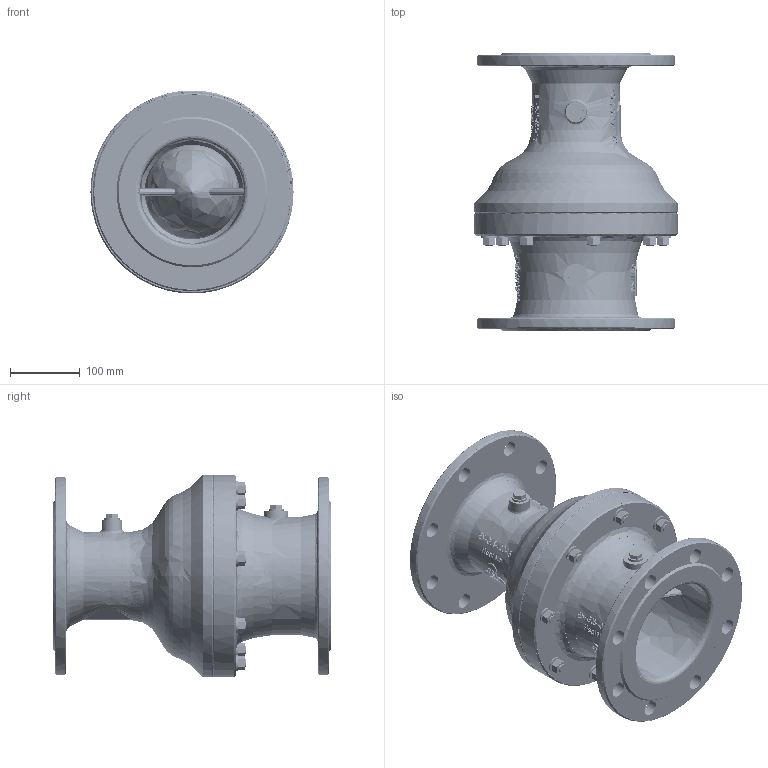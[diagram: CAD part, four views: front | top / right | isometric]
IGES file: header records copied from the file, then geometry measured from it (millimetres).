
Start section: P
Global section: file name: PSA_Hydro-Stop_DN150.igs; native system: By Siemens PLM Incorporated; preprocessor: XPlus GENERIC/IGES 25.1.153; author: Christin-Michelle Fremgen; organization: PSA Wasserarmaturen GmbH; date: 20241009.154717; units: millimetre
Bounding box: 292 x 400 x 291.61 mm (x, y, z)
Surface area: 991813.8 mm2 (no closed solid volume)
Topology: 0 solids, 0 shells, 2297 faces, 13677 edges, 13649 vertices
Faces by surface type: bspline 2297
